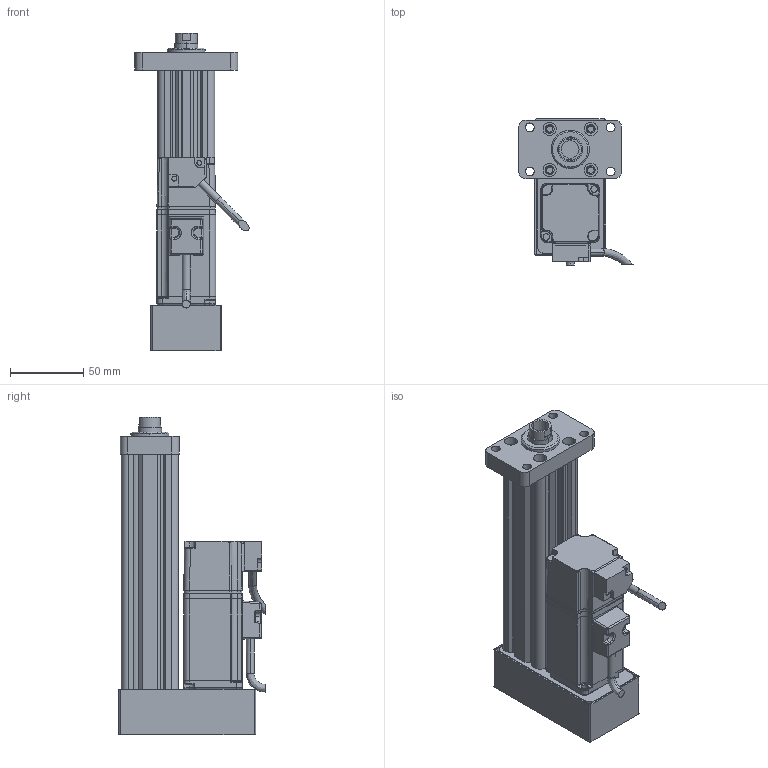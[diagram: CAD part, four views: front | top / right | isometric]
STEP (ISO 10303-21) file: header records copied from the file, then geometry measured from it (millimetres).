
FILE_DESCRIPTION (( 'STEP AP214' ), '1' );
FILE_NAME ('039-S100-D02-B-M3-C2-2.STEP', '2021-02-25T08:44:42', ( '' ), ( '' ), 'SwSTEP 2.0', 'SolidWorks 2018', '' );
FILE_SCHEMA (( 'AUTOMOTIVE_DESIGN' ));
Length unit declared in the file: millimetre
Products named in the file (7): CMC039-GT; CMC039-XT; ECMA-CX0401ES-40框號系列機種-100W低慣量系列; CMC039-DT; 039-S100-D02-B-M3-C2-2; CMC039-FL; CMC039-LJB
Assembly tree (6 placements, depth 2):
  039-S100-D02-B-M3-C2-2
    CMC039-GT
    CMC039-LJB
    CMC039-XT
    CMC039-FL
    CMC039-DT
    ECMA-CX0401ES-40框號系列機種-100W低慣量系列
Bounding box: 77.84 x 99.39 x 216 mm (x, y, z)
Volume: 382548.3 mm3; surface area: 134666.9 mm2
Topology: 6 solids, 14 shells, 612 faces, 1592 edges, 989 vertices
Faces by surface type: cylinder 250, plane 239, bspline 84, cone 39
Entity records: 24722 total; most frequent: CARTESIAN_POINT 10684, ORIENTED_EDGE 3118, DIRECTION 2445, EDGE_CURVE 1559, VERTEX_POINT 989, AXIS2_PLACEMENT_3D 837, VECTOR 771, LINE 771
